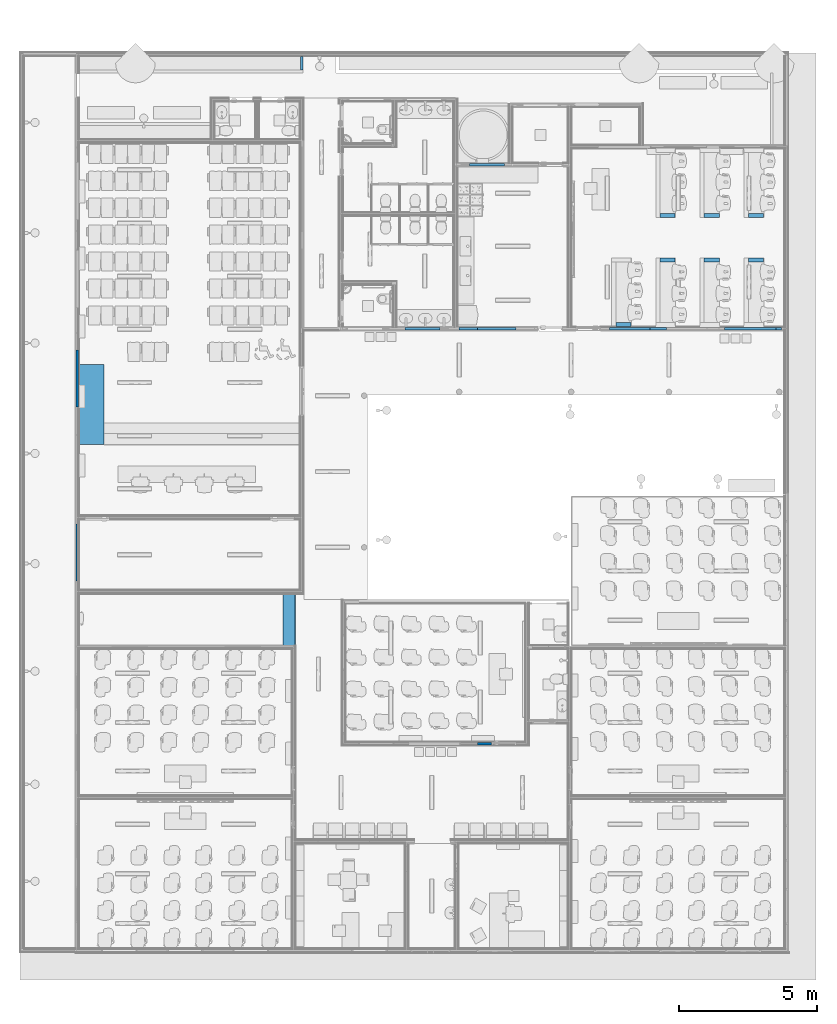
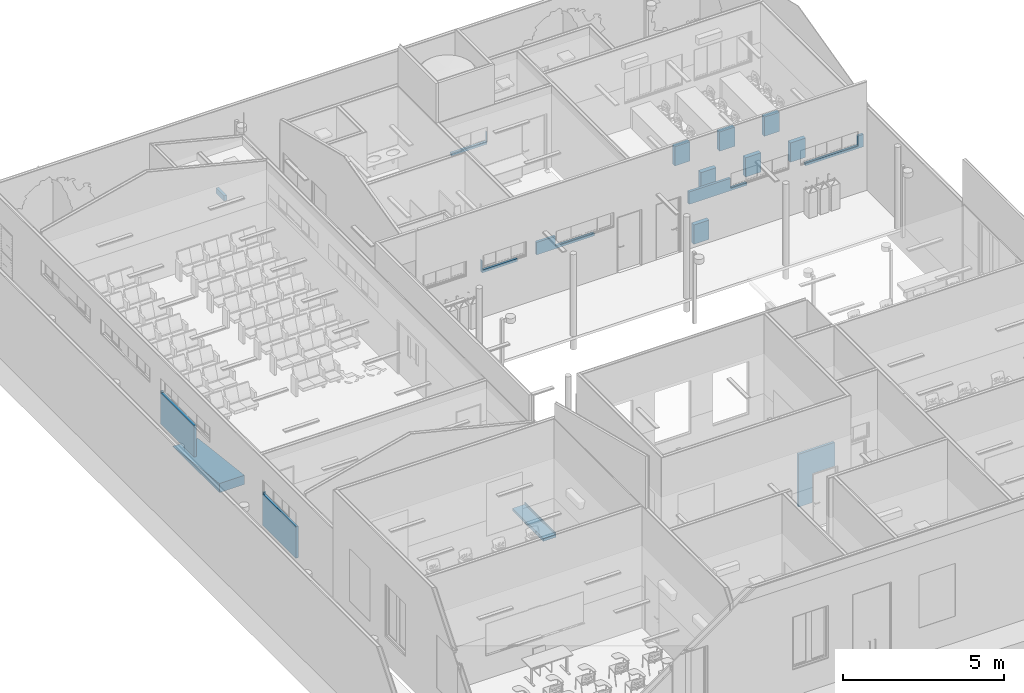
# One storey, part 47 of 155: 16 walls, 1 ramp flight, 1 stair flight, 2 elements without a shape of their own.
"""IFC2X3 building model written with IfcOpenShell, lengths in metres."""

from ifc_helpers import new_model, entity, si_unit, converted_unit, derived_unit, direction, frame, frame_2d, origin, origin_2d_with_axis, place, context, subcontext, project, spatial, polyline, rectangle, outline, extrude, faceted_brep, material, material_list, layer, layer_set, layer_usage, type_object, element, aggregate, save


model = new_model("IFC2X3")

# Units and contexts
model_context = context("Model", 3, precision=1e-05, world=origin(), true_north=direction((6.12303176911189e-17, 1.0)))
body_context = subcontext(model_context, "Body", "Model", "MODEL_VIEW")
ifc_project = project(units=[si_unit("LENGTHUNIT", "METRE"), si_unit("AREAUNIT", "SQUARE_METRE"), si_unit("VOLUMEUNIT", "CUBIC_METRE"), converted_unit("PLANEANGLEUNIT", "DEGREE", entity("IfcRatioMeasure", 0.0174532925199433), si_unit("PLANEANGLEUNIT", "RADIAN"), dimensions=[0, 0, 0, 0, 0, 0, 0]), si_unit("MASSUNIT", "GRAM", prefix="KILO"), derived_unit("MASSDENSITYUNIT", [(si_unit("MASSUNIT", "GRAM", prefix="KILO"), 1), (si_unit("LENGTHUNIT", "METRE"), -3)]), si_unit("TIMEUNIT", "SECOND"), si_unit("FREQUENCYUNIT", "HERTZ"), si_unit("THERMODYNAMICTEMPERATUREUNIT", "DEGREE_CELSIUS"), derived_unit("THERMALTRANSMITTANCEUNIT", [(si_unit("MASSUNIT", "GRAM", prefix="KILO"), 1), (si_unit("THERMODYNAMICTEMPERATUREUNIT", "KELVIN"), -1), (si_unit("TIMEUNIT", "SECOND"), -3)]), derived_unit("VOLUMETRICFLOWRATEUNIT", [(si_unit("LENGTHUNIT", "METRE"), 3), (si_unit("TIMEUNIT", "SECOND"), -1)]), si_unit("ELECTRICCURRENTUNIT", "AMPERE"), si_unit("ELECTRICVOLTAGEUNIT", "VOLT"), si_unit("POWERUNIT", "WATT"), si_unit("FORCEUNIT", "NEWTON", prefix="KILO"), si_unit("ILLUMINANCEUNIT", "LUX"), si_unit("LUMINOUSFLUXUNIT", "LUMEN"), si_unit("LUMINOUSINTENSITYUNIT", "CANDELA"), derived_unit("USERDEFINED", [(si_unit("MASSUNIT", "GRAM", prefix="KILO"), -1), (si_unit("LENGTHUNIT", "METRE"), -2), (si_unit("TIMEUNIT", "SECOND"), 3), (si_unit("LUMINOUSFLUXUNIT", "LUMEN"), 1)]), derived_unit("LINEARVELOCITYUNIT", [(si_unit("LENGTHUNIT", "METRE"), 1), (si_unit("TIMEUNIT", "SECOND"), -1)]), si_unit("PRESSUREUNIT", "PASCAL"), derived_unit("USERDEFINED", [(si_unit("LENGTHUNIT", "METRE"), -2), (si_unit("MASSUNIT", "GRAM", prefix="KILO"), 1), (si_unit("TIMEUNIT", "SECOND"), -2)])], contexts=[model_context])

# Site, building, storey
site_placement = place(None, frame((26.9889013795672, -17.5624287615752, 0.0)))
site = spatial("IfcSite", under=ifc_project, at=site_placement, Name="Default", CompositionType="ELEMENT")
building_placement = place(site_placement, origin())
building = spatial("IfcBuilding", under=site, at=building_placement, Name="C. C. L. Monsenhor Antônio Sampaio", CompositionType="ELEMENT")
storey_placement = place(building_placement, frame((0.0, 0.0, 1.19999999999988)))
storey = spatial("IfcBuildingStorey", under=building, at=storey_placement, Name="Nível 1.2", CompositionType="ELEMENT", Elevation=1.19999999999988)

# Walls
ifc_material_1 = material(Name="ALVENARIA")
ifc_layer_1 = layer(ifc_material_1, 0.09)
ifc_layer_set_1 = layer_set([ifc_layer_1], Name="Parede básica:ENucleo parede 15cm")
wall_type_1 = type_object("IfcWallType", Name="Parede básica:ENucleo parede 15cm", PredefinedType="STANDARD", material=ifc_layer_set_1)
wall_1_placement = place(storey_placement, frame((-14.065552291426, -25.9880663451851, 0.565000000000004), z_axis=(0.0, 0.0, 1.0), x_axis=(0.0, 1.0, 0.0)))
element("IfcWall", 1, at=wall_1_placement, inside=storey, type_object=wall_type_1, Name="Parede básica:ENucleo parede 15cm", ObjectType="Parede básica:ENucleo parede 15cm", context=body_context, shape_type="Brep", body=[
    faceted_brep([(2.07, -0.0449999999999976, 0.0), (2.07, -0.0449999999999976, 1.27000000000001), (2.00999999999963, -0.0449999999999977, 1.27000000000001), (2.00999999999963, -0.0449999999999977, 1.20000000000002), (0.0, -0.0449999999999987, 1.20000000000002), (0.0, -0.0449999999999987, 0.0), (2.07, 0.0450000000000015, 1.27000000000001), (2.07, 0.0450000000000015, 0.0), (0.0, 0.0450000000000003, 0.0), (0.0, 0.0450000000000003, 1.20000000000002), (2.00999999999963, 0.0450000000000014, 1.20000000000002), (2.00999999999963, 0.0450000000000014, 1.27000000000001)], [[[0, 1, 2, 3, 4, 5]], [[6, 7, 8, 9, 10, 11]], [[0, 7, 6, 1]], [[1, 6, 11, 2]], [[8, 5, 4, 9]], [[7, 0, 5, 8]], [[10, 3, 2, 11]], [[3, 10, 9, 4]]]),
])
wall_2_placement = place(storey_placement, frame((-14.065552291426, -19.6680663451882, 0.565000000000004), z_axis=(0.0, 0.0, 1.0), x_axis=(0.0, 1.0, 0.0)))
element("IfcWall", 2, at=wall_2_placement, inside=storey, type_object=wall_type_1, Name="Parede básica:ENucleo parede 15cm", ObjectType="Parede básica:ENucleo parede 15cm", context=body_context, shape_type="Brep", body=[
    faceted_brep([(2.07, -0.0449999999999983, 0.0), (2.07, -0.0449999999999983, 1.27000000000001), (2.03000000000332, -0.0449999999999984, 1.27000000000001), (2.03000000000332, -0.0449999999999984, 1.20000000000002), (0.0, -0.0449999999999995, 1.20000000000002), (0.0, -0.0449999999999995, 0.0), (2.07, 0.0450000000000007, 1.27000000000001), (2.07, 0.0450000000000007, 0.0), (0.0, 0.0449999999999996, 0.0), (0.0, 0.0449999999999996, 1.20000000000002), (2.03000000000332, 0.0450000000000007, 1.20000000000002), (2.03000000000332, 0.0450000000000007, 1.27000000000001)], [[[0, 1, 2, 3, 4, 5]], [[6, 7, 8, 9, 10, 11]], [[0, 7, 6, 1]], [[1, 6, 11, 2]], [[8, 5, 4, 9]], [[7, 0, 5, 8]], [[10, 3, 2, 11]], [[3, 10, 9, 4]]]),
])
wall_3_placement = place(storey_placement, frame((9.40414948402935, -16.8280663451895, 1.66500000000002)))
element("IfcWall", 3, at=wall_3_placement, inside=storey, type_object=wall_type_1, Name="Parede básica:ENucleo parede 15cm", ObjectType="Parede básica:ENucleo parede 15cm", context=body_context, shape_type="Brep", body=[
    faceted_brep([(0.0, -0.0449999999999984, 0.0999999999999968), (0.0, -0.0449999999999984, 0.0), (2.07, -0.0449999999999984, 0.0), (2.07, -0.0449999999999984, 0.470000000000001), (1.87046648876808, -0.0449999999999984, 0.470000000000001), (1.87046648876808, -0.0449999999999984, 0.0999999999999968), (0.0, 0.0450000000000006, 0.0), (0.0, 0.0450000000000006, 0.0999999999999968), (1.87046648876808, 0.0450000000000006, 0.0999999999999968), (1.87046648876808, 0.0450000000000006, 0.470000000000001), (2.07, 0.0450000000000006, 0.470000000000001), (2.07, 0.0450000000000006, 0.0)], [[[0, 1, 2, 3, 4, 5]], [[6, 7, 8, 9, 10, 11]], [[6, 1, 0, 7]], [[3, 10, 9, 4]], [[10, 3, 2, 11]], [[1, 6, 11, 2]], [[8, 5, 4, 9]], [[5, 8, 7, 0]]]),
])
wall_4_placement = place(storey_placement, frame((5.23414948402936, -16.8280663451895, 1.66500000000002)))
element("IfcWall", 4, at=wall_4_placement, inside=storey, type_object=wall_type_1, Name="Parede básica:ENucleo parede 15cm", ObjectType="Parede básica:ENucleo parede 15cm", context=body_context, shape_type="Brep", body=[
    faceted_brep([(0.0, -0.0449999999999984, 0.470000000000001), (0.0, -0.0449999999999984, 0.0), (2.06999999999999, -0.0450000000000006, 0.0), (2.06999999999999, -0.0450000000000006, 0.0999999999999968), (1.48046648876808, -0.0450000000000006, 0.0999999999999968), (1.48046648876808, -0.0450000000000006, 0.470000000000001), (0.0, 0.0450000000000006, 0.0), (0.0, 0.0450000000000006, 0.470000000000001), (1.48046648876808, 0.0449999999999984, 0.470000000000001), (1.48046648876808, 0.0449999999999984, 0.0999999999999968), (2.06999999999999, 0.0449999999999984, 0.0999999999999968), (2.06999999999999, 0.0449999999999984, 0.0)], [[[0, 1, 2, 3, 4, 5]], [[6, 7, 8, 9, 10, 11]], [[6, 1, 0, 7]], [[7, 0, 5, 8]], [[2, 11, 10, 3]], [[1, 6, 11, 2]], [[4, 9, 8, 5]], [[9, 4, 3, 10]]]),
])
wall_5_placement = place(storey_placement, frame((-0.223835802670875, -16.8280663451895, 1.66500000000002)))
element("IfcWall", 5, at=wall_5_placement, inside=storey, type_object=wall_type_1, Name="Parede básica:ENucleo parede 15cm", ObjectType="Parede básica:ENucleo parede 15cm", context=body_context, shape_type="Brep", body=[
    faceted_brep([(2.06999999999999, -0.0449999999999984, 0.0), (2.06999999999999, -0.0449999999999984, 0.0999999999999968), (0.679701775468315, -0.0449999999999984, 0.0999999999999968), (0.679701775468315, -0.0449999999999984, 0.470000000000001), (0.0, -0.0449999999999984, 0.470000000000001), (0.0, -0.0449999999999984, 0.0), (2.06999999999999, 0.0450000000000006, 0.0999999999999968), (2.06999999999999, 0.0450000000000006, 0.0), (0.0, 0.0450000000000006, 0.0), (0.0, 0.0450000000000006, 0.470000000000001), (0.679701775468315, 0.0450000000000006, 0.470000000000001), (0.679701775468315, 0.0450000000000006, 0.0999999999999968)], [[[0, 1, 2, 3, 4, 5]], [[6, 7, 8, 9, 10, 11]], [[0, 7, 6, 1]], [[9, 4, 3, 10]], [[4, 9, 8, 5]], [[7, 0, 5, 8]], [[2, 11, 10, 3]], [[11, 2, 1, 6]]]),
])
wall_6_placement = place(storey_placement, frame((-2.18055229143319, -16.8280663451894, 1.66500000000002)))
element("IfcWall", 6, at=wall_6_placement, inside=storey, type_object=wall_type_1, Name="Parede básica:ENucleo parede 15cm", ObjectType="Parede básica:ENucleo parede 15cm", context=body_context, shape_type="Brep", body=[
    faceted_brep([(1.26999999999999, -0.0449999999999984, 0.0), (1.26999999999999, -0.0449999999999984, 0.1), (0.0100053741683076, -0.0449999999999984, 0.1), (0.0100053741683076, -0.0449999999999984, 0.47000000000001), (0.0, -0.0449999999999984, 0.47000000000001), (0.0, -0.0449999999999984, 0.0), (1.26999999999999, 0.0450000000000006, 0.1), (1.26999999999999, 0.0450000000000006, 0.0), (0.0, 0.0450000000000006, 0.0), (0.0, 0.0450000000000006, 0.47000000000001), (0.0100053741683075, 0.0450000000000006, 0.47000000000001), (0.0100053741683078, 0.0450000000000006, 0.1)], [[[0, 1, 2, 3, 4, 5]], [[6, 7, 8, 9, 10, 11]], [[0, 7, 6, 1]], [[9, 4, 3, 10]], [[4, 9, 8, 5]], [[7, 0, 5, 8]], [[2, 11, 10, 3]], [[11, 2, 1, 6]]]),
])
wall_7_placement = place(storey_placement, frame((0.159447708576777, -10.8780663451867, 1.66500000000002)))
element("IfcWall", 7, at=wall_7_placement, inside=storey, type_object=wall_type_1, Name="Parede básica:ENucleo parede 15cm", ObjectType="Parede básica:ENucleo parede 15cm", context=body_context, shape_type="Brep", body=[
    faceted_brep([(0.0, -0.0449999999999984, 0.0), (1.26999999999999, -0.0449999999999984, 0.0), (1.26999999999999, -0.0449999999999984, 0.47000000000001), (1.26500000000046, -0.0449999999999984, 0.47000000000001), (1.26500000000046, -0.0449999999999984, 0.1), (0.0, -0.0449999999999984, 0.1), (1.26999999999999, 0.0450000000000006, 0.47000000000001), (1.26999999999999, 0.0450000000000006, 0.0), (0.0, 0.0450000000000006, 0.0), (0.0, 0.0450000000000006, 0.1), (1.26500000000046, 0.0450000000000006, 0.1), (1.26500000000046, 0.0450000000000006, 0.47000000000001)], [[[0, 1, 2, 3, 4, 5]], [[6, 7, 8, 9, 10, 11]], [[8, 0, 5, 9]], [[2, 6, 11, 3]], [[6, 2, 1, 7]], [[0, 8, 7, 1]], [[4, 3, 11, 10]], [[5, 4, 10, 9]]]),
])
wall_8_placement = place(storey_placement, frame((1.75943400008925, -31.8780663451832, 1.0), z_axis=(0.0, 0.0, 1.0), x_axis=(-1.0, 0.0, 0.0)))
element("IfcWall", 8, at=wall_8_placement, inside=storey, type_object=wall_type_1, Name="Parede básica:ENucleo parede 15cm", ObjectType="Parede básica:ENucleo parede 15cm", context=body_context, shape_type="Brep", body=[
    faceted_brep([(0.0, -0.0450000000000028, 2.0), (0.0, -0.0450000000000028, 1.09999999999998), (0.805000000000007, -0.0450000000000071, 1.09999999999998), (0.805000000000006, -0.0450000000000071, 0.599999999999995), (0.805000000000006, -0.0450000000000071, 0.0), (1.30000000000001, -0.0450000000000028, 0.0), (1.30000000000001, -0.0450000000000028, 2.0), (0.0, 0.0449999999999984, 1.09999999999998), (0.0, 0.0449999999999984, 2.0), (1.30000000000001, 0.0449999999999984, 2.0), (1.30000000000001, 0.0449999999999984, 0.0), (0.805000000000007, 0.0449999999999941, 0.0), (0.805000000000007, 0.0449999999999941, 0.599999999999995), (0.805000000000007, 0.0449999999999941, 1.09999999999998)], [[[0, 1, 2, 3, 4, 5, 6]], [[7, 8, 9, 10, 11, 12, 13]], [[0, 8, 7, 1]], [[8, 0, 6, 9]], [[9, 6, 5, 10]], [[10, 5, 4, 11]], [[13, 2, 1, 7]], [[2, 13, 12, 11, 4, 3]]]),
])
ifc_material_2 = material(Name=".Pintura branca")
ifc_layer_2 = layer(ifc_material_2, 0.005)
ifc_material_3 = material(Name=".Alvenaria")
ifc_layer_3 = layer(ifc_material_3, 0.09)
ifc_layer_4 = layer(ifc_material_2, 0.005)
ifc_layer_set_2 = layer_set([ifc_layer_2, ifc_layer_3, ifc_layer_4], Name="Parede básica:10cm - Canteiros")
ifc_layer_usage_1 = layer_usage(ifc_layer_set_2, "AXIS2", "NEGATIVE", 0.05)
wall_type_2 = type_object("IfcWallType", Name="Parede básica:10cm - Canteiros", PredefinedType="STANDARD", material=ifc_layer_set_2)
wall_9_placement = place(storey_placement, frame((-5.92555229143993, -7.45306634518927, 0.0), z_axis=(0.0, 0.0, 1.0), x_axis=(0.0, 1.0, 0.0)))
element("IfcWallStandardCase", 9, at=wall_9_placement, inside=storey, type_object=wall_type_2, material=ifc_layer_usage_1, Name="Parede básica:10cm - Canteiros", ObjectType="Parede básica:10cm - Canteiros", context=body_context, shape_type="SweptSolid", body=[
    extrude(rectangle(XDim=0.499999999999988, YDim=0.0999999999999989, at=frame_2d((0.249999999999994, 0.0), x_axis=(-1.0, 0.0))), origin(), (0.0, 0.0, 1.0), 0.2),
])
ifc_material_4 = material(Name=".CERÂMICA 10x10 BRANCA")
ifc_layer_5 = layer(ifc_material_4, 0.005)
ifc_material_5 = material(Name="Argamassa Cola")
ifc_layer_6 = layer(ifc_material_5, 0.0175)
ifc_material_6 = material(Name="Tijolo, comum, marrom")
ifc_layer_7 = layer(ifc_material_6, 0.105)
ifc_layer_8 = layer(ifc_material_5, 0.0175)
ifc_layer_9 = layer(ifc_material_4, 0.005)
ifc_layer_set_3 = layer_set([ifc_layer_5, ifc_layer_6, ifc_layer_7, ifc_layer_8, ifc_layer_9], Name="Parede básica:INTERNA .15 - REVESTIMENTO BRANCO")
ifc_layer_usage_2 = layer_usage(ifc_layer_set_3, "AXIS2", "POSITIVE", -0.075)
wall_type_3 = type_object("IfcWallType", Name="Parede básica:INTERNA .15 - REVESTIMENTO BRANCO", PredefinedType="STANDARD", material=ifc_layer_set_3)
wall_10_placement = place(storey_placement, frame((10.2769477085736, -12.7230663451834, 0.0)))
element("IfcWallStandardCase", 10, at=wall_10_placement, inside=storey, type_object=wall_type_3, material=ifc_layer_usage_2, Name="Parede básica:INTERNA .15 - REVESTIMENTO BRANCO", ObjectType="Parede básica:INTERNA .15 - REVESTIMENTO BRANCO", context=body_context, shape_type="SweptSolid", body=[
    extrude(rectangle(XDim=0.549999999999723, YDim=0.150000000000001, at=frame_2d((0.274999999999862, 0.0), x_axis=(-1.0, 0.0))), origin(), (0.0, 0.0, 1.0), 0.73),
])
ifc_layer_usage_3 = layer_usage(ifc_layer_set_3, "AXIS2", "POSITIVE", -0.075)
wall_11_placement = place(storey_placement, frame((8.67444770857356, -12.7230663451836, 0.0)))
element("IfcWallStandardCase", 11, at=wall_11_placement, inside=storey, type_object=wall_type_3, material=ifc_layer_usage_3, Name="Parede básica:INTERNA .15 - REVESTIMENTO BRANCO", ObjectType="Parede básica:INTERNA .15 - REVESTIMENTO BRANCO", context=body_context, shape_type="SweptSolid", body=[
    extrude(rectangle(XDim=0.549999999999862, YDim=0.150000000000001, at=frame_2d((0.274999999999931, -4.44089209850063e-16), x_axis=(-1.0, 0.0))), origin(), (0.0, 0.0, 1.0), 0.73),
])
ifc_layer_usage_4 = layer_usage(ifc_layer_set_3, "AXIS2", "POSITIVE", -0.075)
wall_12_placement = place(storey_placement, frame((7.07194770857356, -12.7230663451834, 0.0)))
element("IfcWallStandardCase", 12, at=wall_12_placement, inside=storey, type_object=wall_type_3, material=ifc_layer_usage_4, Name="Parede básica:INTERNA .15 - REVESTIMENTO BRANCO", ObjectType="Parede básica:INTERNA .15 - REVESTIMENTO BRANCO", context=body_context, shape_type="SweptSolid", body=[
    extrude(rectangle(XDim=0.549999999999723, YDim=0.150000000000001, at=frame_2d((0.274999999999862, 0.0), x_axis=(-1.0, 0.0))), origin(), (0.0, 0.0, 1.0), 0.73),
])
ifc_layer_usage_5 = layer_usage(ifc_layer_set_3, "AXIS2", "POSITIVE", -0.075)
wall_13_placement = place(storey_placement, frame((5.46944770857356, -16.6830663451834, 0.0)))
element("IfcWallStandardCase", 13, at=wall_13_placement, inside=storey, type_object=wall_type_3, material=ifc_layer_usage_5, Name="Parede básica:INTERNA .15 - REVESTIMENTO BRANCO", ObjectType="Parede básica:INTERNA .15 - REVESTIMENTO BRANCO", context=body_context, shape_type="SweptSolid", body=[
    extrude(rectangle(XDim=0.549999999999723, YDim=0.150000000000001, at=frame_2d((0.274999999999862, 0.0), x_axis=(-1.0, 0.0))), origin(), (0.0, 0.0, 1.0), 0.73),
])
ifc_layer_usage_6 = layer_usage(ifc_layer_set_3, "AXIS2", "NEGATIVE", 0.075)
wall_14_placement = place(storey_placement, frame((10.2769477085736, -14.3380663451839, 0.0)))
element("IfcWallStandardCase", 14, at=wall_14_placement, inside=storey, type_object=wall_type_3, material=ifc_layer_usage_6, Name="Parede básica:INTERNA .15 - REVESTIMENTO BRANCO", ObjectType="Parede básica:INTERNA .15 - REVESTIMENTO BRANCO", context=body_context, shape_type="SweptSolid", body=[
    extrude(rectangle(XDim=0.54999999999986, YDim=0.150000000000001, at=frame_2d((0.27499999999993, -2.77555756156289e-17), x_axis=(-1.0, 0.0))), origin(), (0.0, 0.0, 1.0), 0.73),
])
ifc_layer_usage_7 = layer_usage(ifc_layer_set_3, "AXIS2", "NEGATIVE", 0.075)
wall_15_placement = place(storey_placement, frame((8.67444770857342, -14.3380663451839, 0.0)))
element("IfcWallStandardCase", 15, at=wall_15_placement, inside=storey, type_object=wall_type_3, material=ifc_layer_usage_7, Name="Parede básica:INTERNA .15 - REVESTIMENTO BRANCO", ObjectType="Parede básica:INTERNA .15 - REVESTIMENTO BRANCO", context=body_context, shape_type="SweptSolid", body=[
    extrude(rectangle(XDim=0.549999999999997, YDim=0.150000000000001, at=frame_2d((0.274999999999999, -2.77555756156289e-17), x_axis=(-1.0, 0.0))), origin(), (0.0, 0.0, 1.0), 0.73),
])
ifc_layer_usage_8 = layer_usage(ifc_layer_set_3, "AXIS2", "NEGATIVE", 0.075)
wall_16_placement = place(storey_placement, frame((7.07194770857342, -14.3380663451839, 0.0)))
element("IfcWallStandardCase", 16, at=wall_16_placement, inside=storey, type_object=wall_type_3, material=ifc_layer_usage_8, Name="Parede básica:INTERNA .15 - REVESTIMENTO BRANCO", ObjectType="Parede básica:INTERNA .15 - REVESTIMENTO BRANCO", context=body_context, shape_type="SweptSolid", body=[
    extrude(rectangle(XDim=0.549999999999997, YDim=0.150000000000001, at=frame_2d((0.274999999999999, -2.77555756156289e-17), x_axis=(-1.0, 0.0))), origin(), (0.0, 0.0, 1.0), 0.73),
])

# Stair, stair flight
stair_placement = place(storey_placement, origin())
stair = element("IfcStair", 17, at=stair_placement, inside=storey, Name="Escada moldada no local:Escada", ObjectType="Escada moldada no local:Escada monolítica", ShapeType="NOTDEFINED")
ifc_material_7 = material(Name=".Concreto")
ifc_material_list = material_list([ifc_material_2, ifc_material_7])
stair_flight_placement = place(stair_placement, origin())
stair_flight = element("IfcStairFlight", 18, at=stair_flight_placement, material=ifc_material_list, Name="Escada moldada no local:Escada:4109184 Run 1", ObjectType="Escada moldada no local:Escada monolítica", NumberOfRiser=2, NumberOfTreads=1, RiserHeight=0.328083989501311, TreadLength=1.41076115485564, context=body_context, shape_type="SweptSolid", body=[
    extrude(rectangle(XDim=1.91000000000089, YDim=0.0249999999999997, at=frame_2d((0.0, 5.41233724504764e-16), x_axis=(1.0, 0.0))), frame((-6.58805229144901, -27.3780663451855, 0.0), z_axis=(0.0, 0.0, 1.0), x_axis=(0.0, 1.0, 0.0)), (0.0, 0.0, 1.0), 0.0749999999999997),
    extrude(rectangle(XDim=1.91000000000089, YDim=0.0249999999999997, at=frame_2d((0.0, -5.41233724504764e-16), x_axis=(1.0, 0.0))), frame((-6.15805229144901, -27.3780663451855, 0.0999999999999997), z_axis=(0.0, 0.0, 1.0), x_axis=(0.0, 1.0, 0.0)), (0.0, 0.0, 1.0), 0.0749999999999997),
    extrude(rectangle(XDim=0.455000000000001, YDim=1.91000000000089, at=origin_2d_with_axis()), frame((-6.37305229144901, -27.3780663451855, 0.0749999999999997), z_axis=(0.0, 0.0, 1.0), x_axis=(-1.0, 0.0, 0.0)), (0.0, 0.0, 1.0), 0.025),
    extrude(rectangle(XDim=1.91000000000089, YDim=0.430000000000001, at=frame_2d((-4.32986979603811e-15, -5.41233724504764e-16), x_axis=(1.0, 0.0))), frame((-6.36055229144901, -27.3780663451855, 0.0), z_axis=(0.0, 0.0, 1.0), x_axis=(0.0, -1.0, 0.0)), (0.0, 0.0, 1.0), 0.0749999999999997),
])
aggregate(stair, [stair_flight])

# Ramp, ramp flight
ramp_placement = place(storey_placement, origin())
ramp = element("IfcRamp", 19, at=ramp_placement, inside=storey, Name="Rampa:8.33% sólida", ObjectType="Rampa:8.33% sólida", ShapeType="NOTDEFINED")
ifc_material_8 = material(Name=".Cimentício branco")
ramp_flight_placement = place(ramp_placement, origin())
ramp_flight = element("IfcRampFlight", 20, at=ramp_flight_placement, material=ifc_material_8, Name="Rampa:8.33% sólida:1", ObjectType="Rampa:8.33% sólida", context=body_context, shape_type="SweptSolid", body=[
    extrude(outline(polyline([(-0.232092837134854, -0.966666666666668), (0.116046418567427, -0.966666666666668), (0.116046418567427, 1.93333333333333), (-0.232092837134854, -0.966666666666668)])), frame((-13.98555229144, -20.0613996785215, 0.116046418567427), z_axis=(1.0, 0.0, 0.0), x_axis=(0.0, 0.0, -1.0)), (0.0, 0.0, 1.0), 0.899999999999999),
])
aggregate(ramp, [ramp_flight])

save(model, "model.ifc")
